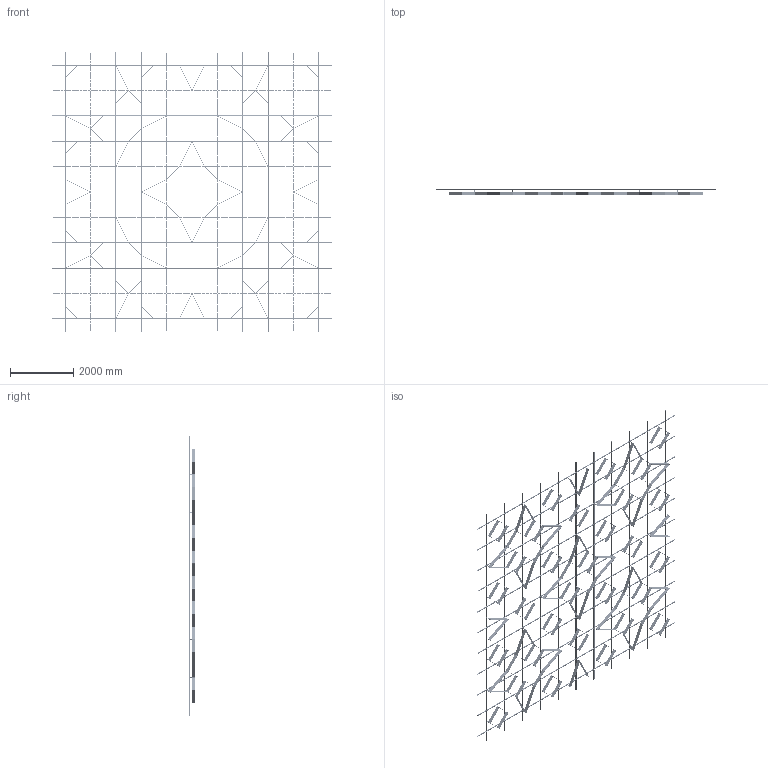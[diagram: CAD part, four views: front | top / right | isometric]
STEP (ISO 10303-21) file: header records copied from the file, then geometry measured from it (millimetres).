
FILE_DESCRIPTION (( 'STEP AP203' ), '1' );
FILE_NAME ('30 ìèäè ñ ïñ.step', '2025-11-26T11:57:17', ( '' ), ( '' ), 'SwSTEP 2.0', 'SolidWorks 2020', '' );
FILE_SCHEMA (( 'CONFIG_CONTROL_DESIGN' ));
Length unit declared in the file: millimetre
Products named in the file (5): 謶鎷ar30; SS.SEMA.2400 - Ñèìà-ïðîôèëü — îáðåçàí 1600; SS.SEMA.2400 - Ñèìà-ïðîôèëü; Ñèñòåìà â çîíå 8000õ8000; 30 ìèäè ñ ïñ
Assembly tree (90 placements, depth 3):
  30 ìèäè ñ ïñ
    Ñèñòåìà â çîíå 8000õ8000
      SS.SEMA.2400 - Ñèìà-ïðîôèëü  x66
      SS.SEMA.2400 - Ñèìà-ïðîôèëü — îáðåçàí 1600  x22
    謶鎷ar30
Bounding box: 8800 x 205 x 8800 mm (x, y, z)
Volume: 117262607.4 mm3; surface area: 55178738.3 mm2
Topology: 964 solids, 964 shells, 20380 faces, 53948 edges, 35496 vertices
Faces by surface type: cylinder 13234, plane 7146
Entity records: 103191 total; most frequent: CARTESIAN_POINT 23234, DIRECTION 15618, ORIENTED_EDGE 14744, AXIS2_PLACEMENT_3D 7560, EDGE_CURVE 7372, VERTEX_POINT 4904, EDGE_LOOP 4386, ADVANCED_FACE 4224
